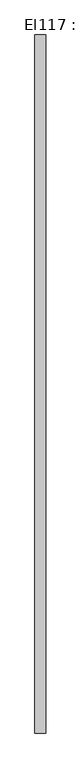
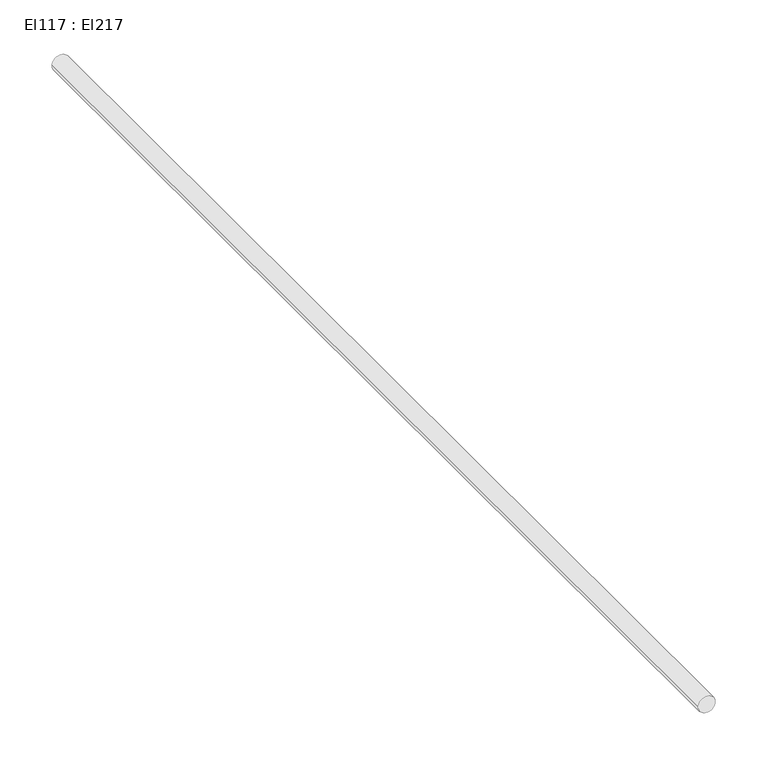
"""IFC4 building model written with IfcOpenShell, lengths in millimetres: cable carrier segment geometry, El117 : El217."""

import ifcopenshell
import ifcopenshell.guid

model = None  # the IFC model being written
_history = None  # IfcOwnerHistory: only IFC2X3 demands one
_inside = {}  # id of a spatial element -> (the spatial element, [elements in it])
_under = {}  # id of a project, library or spatial element -> (it, [spatial elements below it])
_declared = {}  # id of a project -> (the project, [libraries it declares])
_typed = {}  # id of a type object -> (the type object, [elements of that type])
_made_of = {}  # id of a material, layer set ... -> (it, [elements and type objects made of it])


def new_model(schema):
    """Start an empty IFC model of exactly this schema.

    Asked for "IFC4X3", IfcOpenShell would pick the latest addendum, in which some entities
    have other attributes; the version numbers below select the first issue.
    IFC2X3 requires an IfcOwnerHistory on every rooted entity: one is made here for all.
    """
    global model, _history
    if schema == "IFC4X3":
        model = ifcopenshell.file(schema_version=(4, 3, 0, 0))
    else:
        model = ifcopenshell.file(schema=schema)
    _inside.clear()
    _under.clear()
    _declared.clear()
    _typed.clear()
    _made_of.clear()
    _history = None
    if model.schema == "IFC2X3":
        org = make("IfcOrganization", Name="unknown")
        user = make(
            "IfcPersonAndOrganization",
            ThePerson=make("IfcPerson", FamilyName="unknown"),
            TheOrganization=org,
        )
        app = make(
            "IfcApplication",
            ApplicationDeveloper=org,
            Version="unknown",
            ApplicationFullName="unknown",
            ApplicationIdentifier="unknown",
        )
        _history = make(
            "IfcOwnerHistory",
            OwningUser=user,
            OwningApplication=app,
            ChangeAction="ADDED",
            CreationDate=0,
        )
    return model


def make(cls, **values):
    """One entity of the class cls with the attributes given. An attribute that is None is left unset."""
    return model.create_entity(
        cls, **{name: value for name, value in values.items() if value is not None}
    )


def rooted(cls, **values):
    """An entity with a GlobalId (a new one), such as an element, a storey or a relation."""
    return make(cls, GlobalId=ifcopenshell.guid.new(), OwnerHistory=_history, **values)


def si_unit(unit_type, name, prefix=None):
    """IfcSIUnit, for example si_unit("LENGTHUNIT", "METRE", prefix="MILLI")."""
    return make("IfcSIUnit", UnitType=unit_type, Prefix=prefix, Name=name)


def assignment(units):
    """IfcUnitAssignment: the units of a project."""
    return None if units is None else make("IfcUnitAssignment", Units=units)


def point(xyz):
    """IfcCartesianPoint."""
    return None if xyz is None else make("IfcCartesianPoint", Coordinates=xyz)


def direction(xyz):
    """IfcDirection."""
    return None if xyz is None else make("IfcDirection", DirectionRatios=xyz)


def frame(location, z_axis=None, x_axis=None):
    """IfcAxis2Placement3D, a coordinate frame: its origin and axes. An axis left out is left unset."""
    return make(
        "IfcAxis2Placement3D",
        Location=point(location),
        Axis=direction(z_axis),
        RefDirection=direction(x_axis),
    )


def frame_2d(location, x_axis=None):
    """IfcAxis2Placement2D, a coordinate frame in the plane: its origin and x axis."""
    return make(
        "IfcAxis2Placement2D", Location=point(location), RefDirection=direction(x_axis)
    )


def origin():
    """The frame at (0, 0, 0) with its axes left unset."""
    return frame((0.0, 0.0, 0.0))


def place(relative_to, where):
    """IfcLocalPlacement: puts the frame where relative to a parent placement (None: the world)."""
    return make(
        "IfcLocalPlacement", PlacementRelTo=relative_to, RelativePlacement=where
    )


def context(
    kind, dimensions, precision=None, world=None, true_north=None, identifier=None
):
    """IfcGeometricRepresentationContext, for example the 3D "Model" context."""
    return make(
        "IfcGeometricRepresentationContext",
        ContextIdentifier=identifier,
        ContextType=kind,
        CoordinateSpaceDimension=dimensions,
        Precision=precision,
        WorldCoordinateSystem=world,
        TrueNorth=true_north,
    )


def project(units=None, contexts=None):
    """IfcProject with its units and contexts."""
    return rooted(
        "IfcProject",
        Name="project",
        RepresentationContexts=contexts,
        UnitsInContext=assignment(units),
    )


def spatial(cls, under=None, at=None, **own):
    """A site, building, storey or space (cls), placed at a placement, below another one or the project."""
    s = rooted(cls, ObjectPlacement=at, **own)
    if under is not None:
        _under.setdefault(under.id(), (under, []))[1].append(s)
    return s


def circle_curve(where, radius):
    """IfcCircle in the frame where."""
    return make("IfcCircle", Position=where, Radius=radius)


def trimmed(basis, trim1, trim2, sense, master):
    """IfcTrimmedCurve: the piece of a basis curve between two trims."""
    return make(
        "IfcTrimmedCurve",
        BasisCurve=basis,
        Trim1=trim1,
        Trim2=trim2,
        SenseAgreement=sense,
        MasterRepresentation=master,
    )


def segment(curve, same_sense, transition):
    """IfcCompositeCurveSegment."""
    return make(
        "IfcCompositeCurveSegment",
        Transition=transition,
        SameSense=same_sense,
        ParentCurve=curve,
    )


def composite_curve(segments, self_intersect=None):
    """IfcCompositeCurve: segments joined end to end."""
    return make("IfcCompositeCurve", Segments=segments, SelfIntersect=self_intersect)


def outline(outer, holes=None, kind="AREA"):
    """IfcArbitraryClosedProfileDef: a profile drawn as a closed curve; with holes, ...WithVoids."""
    if holes is None:
        return make("IfcArbitraryClosedProfileDef", ProfileType=kind, OuterCurve=outer)
    return make(
        "IfcArbitraryProfileDefWithVoids",
        ProfileType=kind,
        OuterCurve=outer,
        InnerCurves=holes,
    )


def extrude(swept, where, along, depth):
    """IfcExtrudedAreaSolid: the profile swept, set in the frame where, extruded along a direction by depth."""
    return make(
        "IfcExtrudedAreaSolid",
        SweptArea=swept,
        Position=where,
        ExtrudedDirection=direction(along),
        Depth=depth,
    )


def shape(context_of_items, identifier, shape_type, items):
    """IfcShapeRepresentation: the items that make up one representation, for example the "Body"."""
    return make(
        "IfcShapeRepresentation",
        ContextOfItems=context_of_items,
        RepresentationIdentifier=identifier,
        RepresentationType=shape_type,
        Items=items,
    )


def source(mapping_origin, context_of_items, identifier, shape_type, items):
    """IfcRepresentationMap: a shape defined once, which mapped items show again and again."""
    return make(
        "IfcRepresentationMap",
        MappingOrigin=mapping_origin,
        MappedRepresentation=shape(context_of_items, identifier, shape_type, items),
    )


def transform(
    local_origin,
    x_axis=None,
    y_axis=None,
    z_axis=None,
    scale=None,
    scale2=None,
    scale3=None,
    uniform=True,
):
    """IfcCartesianTransformationOperator3D, or its non-uniform kind. x_axis, y_axis, z_axis: its Axis1, 2, 3."""
    if uniform:
        return make(
            "IfcCartesianTransformationOperator3D",
            Axis1=direction(x_axis),
            Axis2=direction(y_axis),
            LocalOrigin=point(local_origin),
            Scale=scale,
            Axis3=direction(z_axis),
        )
    return make(
        "IfcCartesianTransformationOperator3DnonUniform",
        Axis1=direction(x_axis),
        Axis2=direction(y_axis),
        LocalOrigin=point(local_origin),
        Scale=scale,
        Axis3=direction(z_axis),
        Scale2=scale2,
        Scale3=scale3,
    )


def mapped(mapping_source, mapping_target):
    """IfcMappedItem: shows the shape of a source again, moved by a transform."""
    return make(
        "IfcMappedItem", MappingSource=mapping_source, MappingTarget=mapping_target
    )


def made_of(thing, what):
    """Note that an element or type object is made of a material, layer set ...; save() writes the relation."""
    if what is not None:
        _made_of.setdefault(what.id(), (what, []))[1].append(thing)
    return thing


def element(
    cls,
    number,
    at=None,
    inside=None,
    cuts=None,
    type_object=None,
    material=None,
    context=None,
    identifier="Body",
    shape_type=None,
    held_by="IfcProductDefinitionShape",
    body=None,
    shapes=None,
    **own,
):
    """One element of the class cls, such as IfcWall. Its Tag is "e" and its number.

    at: its placement. inside: the storey or other place that contains it. cuts: it is an
    opening in that element (IfcRelVoidsElement). A single representation is given by context,
    identifier, shape_type and body (its items); several are given by shapes. held_by: the class
    of the entity that holds the representations. save() writes the other relations.
    """
    e = rooted(cls, Tag="e%d" % number, ObjectPlacement=at, **own)
    if body is not None:
        shapes = [shape(context, identifier, shape_type, body)]
    if shapes is not None:
        e.Representation = make(held_by, Representations=shapes)
    if inside is not None:
        _inside.setdefault(inside.id(), (inside, []))[1].append(e)
    if cuts is not None:
        rooted(
            "IfcRelVoidsElement", RelatingBuildingElement=cuts, RelatedOpeningElement=e
        )
    if type_object is not None:
        _typed.setdefault(type_object.id(), (type_object, []))[1].append(e)
    return made_of(e, material)


def aggregate(whole, parts):
    """IfcRelAggregates: a whole, such as a stair, and the parts it consists of."""
    return rooted("IfcRelAggregates", RelatingObject=whole, RelatedObjects=parts)


def save(model, path):
    """Write the relations noted so far, then the file.

    IfcRelAggregates (storeys below a building ...), IfcRelContainedInSpatialStructure (elements
    in a storey), IfcRelDefinesByType, IfcRelAssociatesMaterial and IfcRelDeclares: one each for
    every whole, place, type object, material and project.
    """
    for whole, parts in _under.values():
        aggregate(whole, parts)
    for where, things in _inside.values():
        rooted(
            "IfcRelContainedInSpatialStructure",
            RelatedElements=things,
            RelatingStructure=where,
        )
    for kind, things in _typed.values():
        rooted("IfcRelDefinesByType", RelatedObjects=things, RelatingType=kind)
    for what, things in _made_of.values():
        rooted("IfcRelAssociatesMaterial", RelatedObjects=things, RelatingMaterial=what)
    for by, libraries in _declared.values():
        rooted("IfcRelDeclares", RelatingContext=by, RelatedDefinitions=libraries)
    model.write(path)


def el117_el217_7d4fc841(model_context):
    return source(origin(), model_context, "Body", "SweptSolid", [
        extrude(outline(composite_curve([segment(trimmed(circle_curve(frame_2d((2700.0, 2714.4746511)), 9.5), [point((2700.0, 2704.9746511))], [point((2700.0, 2723.9746511))], False, "CARTESIAN"), True, "CONTINUOUS"), segment(trimmed(circle_curve(frame_2d((2700.0, 2714.4746511)), 9.5), [point((2700.0, 2723.9746511))], [point((2700.0, 2704.9746511))], False, "CARTESIAN"), True, "CONTINUOUS")], self_intersect=False)), frame((0.0, 16235.4211745, 0.0), z_axis=(0.0, 1.0, 0.0), x_axis=(0.0, 0.0, 1.0)), (0.0, 0.0, 1.0), 1239.58),
    ])


if __name__ == "__main__":
    model = new_model("IFC4")
    model_context = context("Model", 3, world=origin())
    ifc_project = project(units=[si_unit("LENGTHUNIT", "METRE", prefix="MILLI")], contexts=[model_context])
    site = spatial("IfcSite", under=ifc_project)
    building = spatial("IfcBuilding", under=site)
    placement = place(None, origin())
    el117_el217_shape = el117_el217_7d4fc841(model_context)
    element("IfcCableCarrierSegment", 1, ObjectType="El117 : El217", at=placement, inside=building, context=model_context, shape_type="MappedRepresentation", body=[
        mapped(el117_el217_shape, transform((0.0, 0.0, 0.0), x_axis=(1.0, 0.0, 0.0), y_axis=(0.0, 1.0, 0.0), z_axis=(0.0, 0.0, 1.0))),
    ])
    save(model, "model.ifc")
